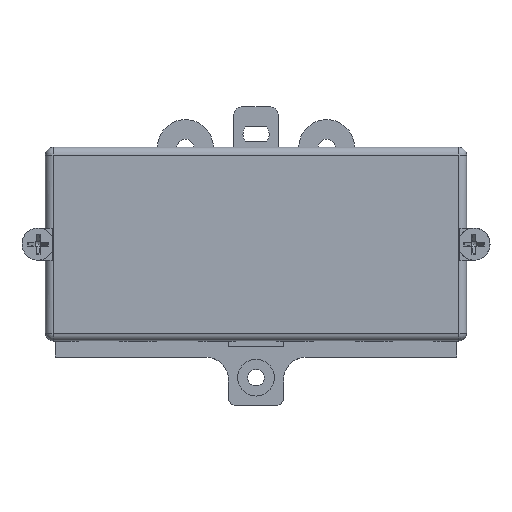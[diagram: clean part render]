
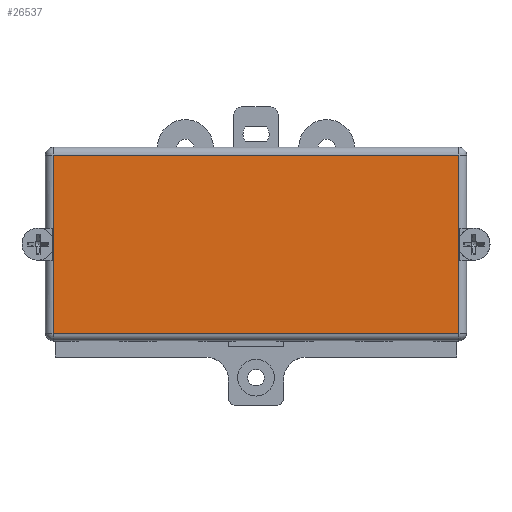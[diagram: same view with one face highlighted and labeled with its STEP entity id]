
A CAD part, top view. The second image highlights one B-rep face of the part: STEP entity #26537.
In plain terms, the highlighted planar face has unit normal (0, 0, 1).
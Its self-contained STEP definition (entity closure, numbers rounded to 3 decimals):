
#1471=ORIENTED_EDGE('',*,*,#7019,.T.);
#1472=ORIENTED_EDGE('',*,*,#6892,.T.);
#1473=ORIENTED_EDGE('',*,*,#7020,.T.);
#1474=ORIENTED_EDGE('',*,*,#6890,.T.);
#6890=EDGE_CURVE('',#9711,#9712,#11570,.F.);
#6892=EDGE_CURVE('',#9714,#9713,#11571,.F.);
#7019=EDGE_CURVE('',#9712,#9714,#11676,.F.);
#7020=EDGE_CURVE('',#9713,#9711,#11677,.F.);
#9711=VERTEX_POINT('',#34818);
#9712=VERTEX_POINT('',#34820);
#9713=VERTEX_POINT('',#34824);
#9714=VERTEX_POINT('',#34826);
#11570=LINE('',#34821,#13539);
#11571=LINE('',#34825,#13540);
#11676=LINE('',#35083,#13645);
#11677=LINE('',#35084,#13646);
#13539=VECTOR('',#29372,1000.);
#13540=VECTOR('',#29377,1000.);
#13645=VECTOR('',#29634,1000.);
#13646=VECTOR('',#29635,1000.);
#15527=EDGE_LOOP('',(#1471,#1472,#1473,#1474));
#16794=FACE_BOUND('',#15527,.T.);
#18059=PLANE('',#27672);
#26537=ADVANCED_FACE('',(#16794),#18059,.F.);
#27672=AXIS2_PLACEMENT_3D('',#35082,#29632,#29633);
#29372=DIRECTION('',(1.,0.,0.));
#29377=DIRECTION('',(-1.,0.,0.));
#29632=DIRECTION('',(0.,0.,-1.));
#29633=DIRECTION('',(0.,1.,0.));
#29634=DIRECTION('',(0.,1.,0.));
#29635=DIRECTION('',(0.,-1.,0.));
#34818=CARTESIAN_POINT('',(44.2,37.65,26.9));
#34820=CARTESIAN_POINT('',(-44.2,37.65,26.9));
#34821=CARTESIAN_POINT('',(0.,37.65,26.9));
#34824=CARTESIAN_POINT('',(44.2,-1.15,26.9));
#34825=CARTESIAN_POINT('',(0.,-1.15,26.9));
#34826=CARTESIAN_POINT('',(-44.2,-1.15,26.9));
#35082=CARTESIAN_POINT('',(0.,18.25,26.9));
#35083=CARTESIAN_POINT('',(-44.2,18.25,26.9));
#35084=CARTESIAN_POINT('',(44.2,18.25,26.9));
